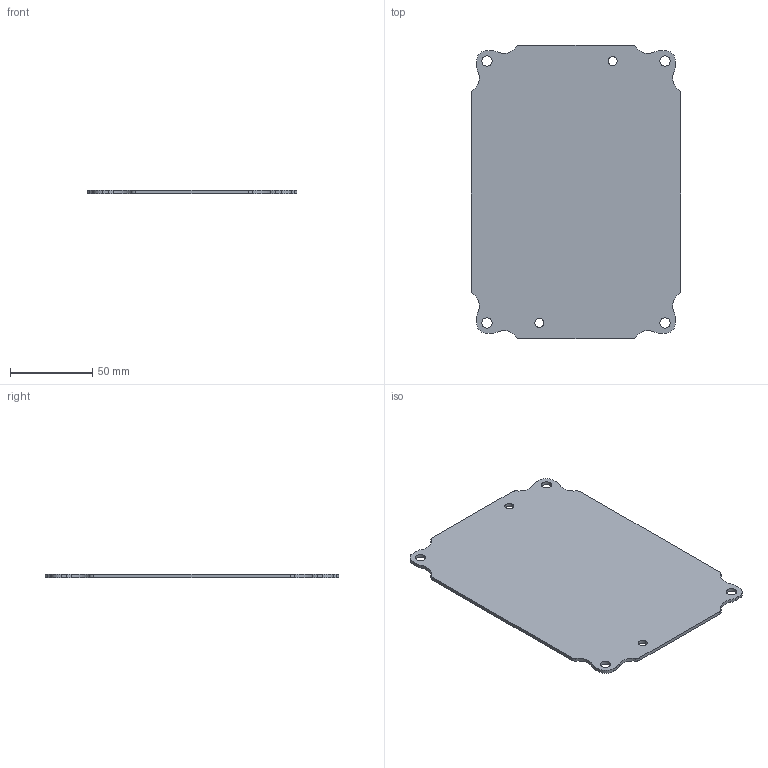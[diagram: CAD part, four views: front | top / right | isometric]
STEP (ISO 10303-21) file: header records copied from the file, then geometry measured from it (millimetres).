
FILE_DESCRIPTION((''),'2;1');
FILE_NAME('MODEL-082_ASM','2018-01-02T06:47:15',('joelb'),('SAGINAW CONTROL & ENGINEERING'),'CREO PARAMETRIC BY PTC INC, 2017260','CREO PARAMETRIC BY PTC INC, 2017260','');
FILE_SCHEMA(('AUTOMOTIVE_DESIGN { 1 0 10303 214 1 1 1 1 }'));
Length unit declared in the file: inch
Products named in the file (2): MODEL-082-SUBPNL; MODEL-082_ASM
Assembly tree (1 placements, depth 2):
  MODEL-082_ASM
    MODEL-082-SUBPNL
Bounding box: 127 x 177.8 x 2.03 mm (x, y, z)
Volume: 43955.5 mm3; surface area: 44691.7 mm2
Topology: 1 solids, 1 shells, 54 faces, 156 edges, 104 vertices
Faces by surface type: cylinder 40, plane 14
Entity records: 2983 total; most frequent: DIRECTION 350, CARTESIAN_POINT 321, ORIENTED_EDGE 312, PRESENTATION_STYLE_ASSIGNMENT 157, STYLED_ITEM 157, CURVE_STYLE 156, EDGE_CURVE 156, AXIS2_PLACEMENT_3D 137
